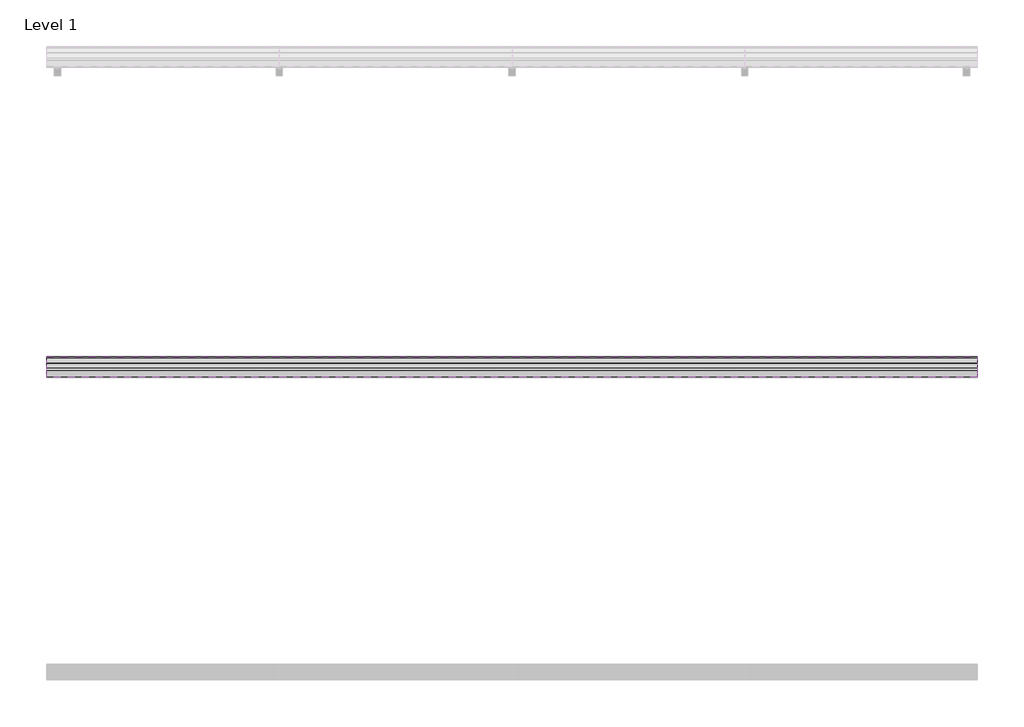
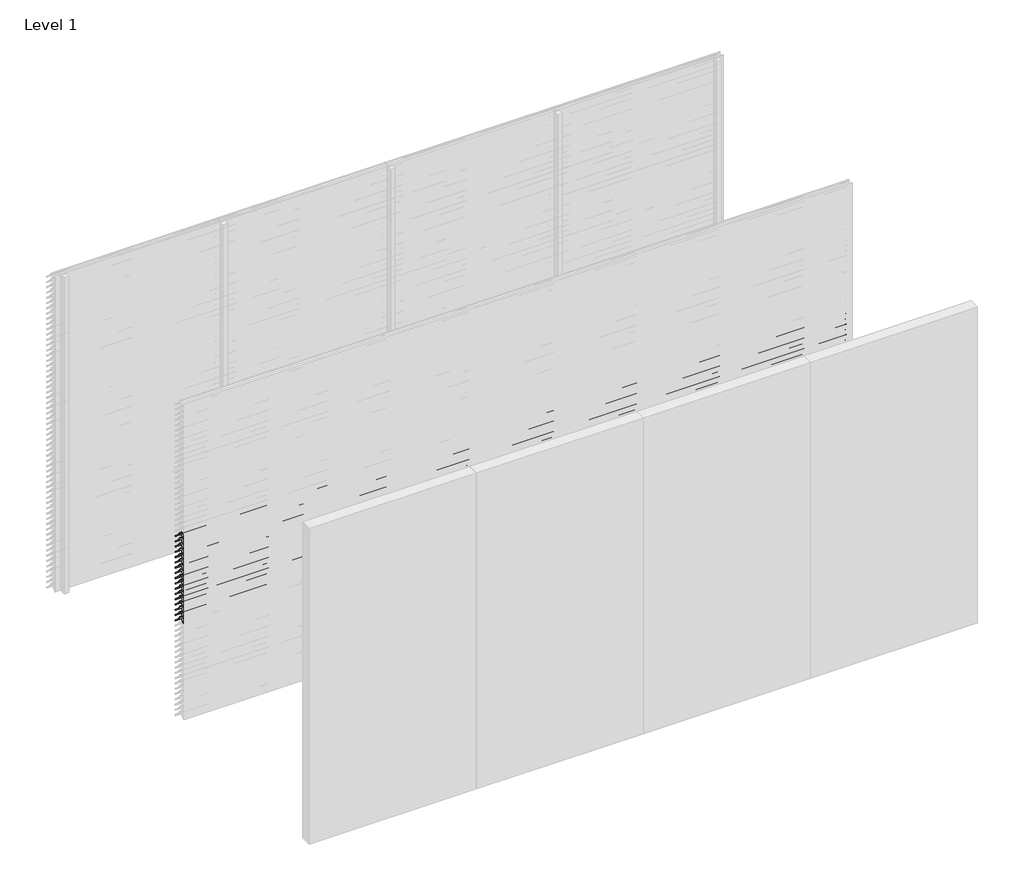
# One storey, part 73 of 173: 17 proxies.
"""IFC4 building model written with IfcOpenShell, lengths in millimetres."""

from ifc_helpers import new_model, si_unit, point, frame, frame_2d, origin, place, context, project, spatial, polyline, circle_curve, trimmed, segment, composite_curve, outline, extrude, element, save

model = new_model("IFC4")

# Units and contexts
model_context = context("Model", 3, world=origin())
ifc_project = project(units=[si_unit("LENGTHUNIT", "METRE", prefix="MILLI")], contexts=[model_context])

# Site, building, storey
site = spatial("IfcSite", under=ifc_project)
building = spatial("IfcBuilding", under=site)
storey = spatial("IfcBuildingStorey", under=building, Name="Level 1", Elevation=0.0)

# Proxies
placement = place(None, origin())
element("IfcBuildingElementProxy", 1, Name="Wall Sweeps", at=placement, inside=storey, context=model_context, shape_type="SweptSolid", body=[
    extrude(outline(composite_curve([segment(polyline([(-31998.0, 1709.1474905), (-31998.0, 1711.6227417)]), True, "CONTINUOUS"), segment(trimmed(circle_curve(frame_2d((-31951.2682172, 1666.2200208)), 65.1557103), [point((-31998.0, 1711.6227417))], [point((-31954.4014323, 1731.3003524))], False, "CARTESIAN"), True, "CONTINUOUS"), segment(polyline([(-31954.4014323, 1731.3003524), (-31934.8315836, 1731.3003524)]), True, "CONTINUOUS"), segment(trimmed(circle_curve(frame_2d((-31732.7329489, 1878.5533172)), 250.0545817), [point((-31934.8315836, 1731.3003524))], [point((-31941.4452143, 1740.8344583))], False, "CARTESIAN"), True, "CONTINUOUS"), segment(trimmed(circle_curve(frame_2d((-31953.2981792, 1735.1737835)), 13.1352966), [point((-31941.4452143, 1740.8344583))], [point((-31953.8171475, 1748.298824))], True, "CARTESIAN"), True, "CONTINUOUS"), segment(polyline([(-31953.8171475, 1748.298824), (-31953.8171475, 1750.0)]), True, "CONTINUOUS"), segment(trimmed(circle_curve(frame_2d((-31953.2981792, 1735.1737835)), 14.8352966), [point((-31953.8171475, 1750.0))], [point((-31939.9637661, 1741.6760487))], False, "CARTESIAN"), True, "CONTINUOUS"), segment(trimmed(circle_curve(frame_2d((-31732.7329489, 1878.5533172)), 248.3545817), [point((-31939.9637661, 1741.6760487))], [point((-31873.8787895, 1674.2059416))], True, "CARTESIAN"), True, "CONTINUOUS"), segment(trimmed(circle_curve(frame_2d((-31883.8147537, 1661.6649442)), 16.0), [point((-31873.8787895, 1674.2059416))], [point((-31867.8648347, 1660.4))], False, "CARTESIAN"), True, "CONTINUOUS"), segment(polyline([(-31867.8648347, 1660.4), (-31869.6712069, 1660.4)]), True, "CONTINUOUS"), segment(trimmed(circle_curve(frame_2d((-31883.8147537, 1661.6649442)), 14.2), [point((-31869.6712069, 1660.4))], [point((-31874.9518628, 1672.7594998))], True, "CARTESIAN"), True, "CONTINUOUS"), segment(trimmed(circle_curve(frame_2d((-31732.7329489, 1878.5533172)), 250.1545817), [point((-31874.9518628, 1672.7594998))], [point((-31933.7064024, 1729.6003524))], False, "CARTESIAN"), True, "CONTINUOUS"), segment(polyline([(-31933.7064024, 1729.6003524), (-31954.3602632, 1729.6003524)]), True, "CONTINUOUS"), segment(trimmed(circle_curve(frame_2d((-31951.2682172, 1666.2200208)), 63.4557103), [point((-31954.3602632, 1729.6003524))], [point((-31998.0, 1709.1474905))], True, "CARTESIAN"), True, "CONTINUOUS")], self_intersect=False)), frame((0.0, 0.0, 0.0), z_axis=(1.0, 0.0, 0.0), x_axis=(0.0, 1.0, 0.0)), (0.0, 0.0, 1.0), 6000.0),
])
element("IfcBuildingElementProxy", 2, Name="Wall Sweeps", at=placement, inside=storey, context=model_context, shape_type="SweptSolid", body=[
    extrude(outline(composite_curve([segment(polyline([(-31998.0, 1659.1474905), (-31998.0, 1661.6227417)]), True, "CONTINUOUS"), segment(trimmed(circle_curve(frame_2d((-31951.2682172, 1616.2200208)), 65.1557103), [point((-31998.0, 1661.6227417))], [point((-31954.4014323, 1681.3003524))], False, "CARTESIAN"), True, "CONTINUOUS"), segment(polyline([(-31954.4014323, 1681.3003524), (-31934.8315836, 1681.3003524)]), True, "CONTINUOUS"), segment(trimmed(circle_curve(frame_2d((-31732.7329489, 1828.5533172)), 250.0545817), [point((-31934.8315836, 1681.3003524))], [point((-31941.4452143, 1690.8344583))], False, "CARTESIAN"), True, "CONTINUOUS"), segment(trimmed(circle_curve(frame_2d((-31953.2981792, 1685.1737835)), 13.1352966), [point((-31941.4452143, 1690.8344583))], [point((-31953.8171475, 1698.298824))], True, "CARTESIAN"), True, "CONTINUOUS"), segment(polyline([(-31953.8171475, 1698.298824), (-31953.8171475, 1700.0)]), True, "CONTINUOUS"), segment(trimmed(circle_curve(frame_2d((-31953.2981792, 1685.1737835)), 14.8352966), [point((-31953.8171475, 1700.0))], [point((-31939.9637661, 1691.6760487))], False, "CARTESIAN"), True, "CONTINUOUS"), segment(trimmed(circle_curve(frame_2d((-31732.7329489, 1828.5533172)), 248.3545817), [point((-31939.9637661, 1691.6760487))], [point((-31873.8787895, 1624.2059416))], True, "CARTESIAN"), True, "CONTINUOUS"), segment(trimmed(circle_curve(frame_2d((-31883.8147537, 1611.6649442)), 16.0), [point((-31873.8787895, 1624.2059416))], [point((-31867.8648347, 1610.4))], False, "CARTESIAN"), True, "CONTINUOUS"), segment(polyline([(-31867.8648347, 1610.4), (-31869.6712069, 1610.4)]), True, "CONTINUOUS"), segment(trimmed(circle_curve(frame_2d((-31883.8147537, 1611.6649442)), 14.2), [point((-31869.6712069, 1610.4))], [point((-31874.9518628, 1622.7594998))], True, "CARTESIAN"), True, "CONTINUOUS"), segment(trimmed(circle_curve(frame_2d((-31732.7329489, 1828.5533172)), 250.1545817), [point((-31874.9518628, 1622.7594998))], [point((-31933.7064024, 1679.6003524))], False, "CARTESIAN"), True, "CONTINUOUS"), segment(polyline([(-31933.7064024, 1679.6003524), (-31954.3602632, 1679.6003524)]), True, "CONTINUOUS"), segment(trimmed(circle_curve(frame_2d((-31951.2682172, 1616.2200208)), 63.4557103), [point((-31954.3602632, 1679.6003524))], [point((-31998.0, 1659.1474905))], True, "CARTESIAN"), True, "CONTINUOUS")], self_intersect=False)), frame((0.0, 0.0, 0.0), z_axis=(1.0, 0.0, 0.0), x_axis=(0.0, 1.0, 0.0)), (0.0, 0.0, 1.0), 6000.0),
])
element("IfcBuildingElementProxy", 3, Name="Wall Sweeps", at=placement, inside=storey, context=model_context, shape_type="SweptSolid", body=[
    extrude(outline(composite_curve([segment(polyline([(-31998.0, 1609.1474905), (-31998.0, 1611.6227417)]), True, "CONTINUOUS"), segment(trimmed(circle_curve(frame_2d((-31951.2682172, 1566.2200208)), 65.1557103), [point((-31998.0, 1611.6227417))], [point((-31954.4014323, 1631.3003524))], False, "CARTESIAN"), True, "CONTINUOUS"), segment(polyline([(-31954.4014323, 1631.3003524), (-31934.8315836, 1631.3003524)]), True, "CONTINUOUS"), segment(trimmed(circle_curve(frame_2d((-31732.7329489, 1778.5533172)), 250.0545817), [point((-31934.8315836, 1631.3003524))], [point((-31941.4452143, 1640.8344583))], False, "CARTESIAN"), True, "CONTINUOUS"), segment(trimmed(circle_curve(frame_2d((-31953.2981792, 1635.1737835)), 13.1352966), [point((-31941.4452143, 1640.8344583))], [point((-31953.8171475, 1648.298824))], True, "CARTESIAN"), True, "CONTINUOUS"), segment(polyline([(-31953.8171475, 1648.298824), (-31953.8171475, 1650.0)]), True, "CONTINUOUS"), segment(trimmed(circle_curve(frame_2d((-31953.2981792, 1635.1737835)), 14.8352966), [point((-31953.8171475, 1650.0))], [point((-31939.9637661, 1641.6760487))], False, "CARTESIAN"), True, "CONTINUOUS"), segment(trimmed(circle_curve(frame_2d((-31732.7329489, 1778.5533172)), 248.3545817), [point((-31939.9637661, 1641.6760487))], [point((-31873.8787895, 1574.2059416))], True, "CARTESIAN"), True, "CONTINUOUS"), segment(trimmed(circle_curve(frame_2d((-31883.8147537, 1561.6649442)), 16.0), [point((-31873.8787895, 1574.2059416))], [point((-31867.8648347, 1560.4))], False, "CARTESIAN"), True, "CONTINUOUS"), segment(polyline([(-31867.8648347, 1560.4), (-31869.6712069, 1560.4)]), True, "CONTINUOUS"), segment(trimmed(circle_curve(frame_2d((-31883.8147537, 1561.6649442)), 14.2), [point((-31869.6712069, 1560.4))], [point((-31874.9518628, 1572.7594998))], True, "CARTESIAN"), True, "CONTINUOUS"), segment(trimmed(circle_curve(frame_2d((-31732.7329489, 1778.5533172)), 250.1545817), [point((-31874.9518628, 1572.7594998))], [point((-31933.7064024, 1629.6003524))], False, "CARTESIAN"), True, "CONTINUOUS"), segment(polyline([(-31933.7064024, 1629.6003524), (-31954.3602632, 1629.6003524)]), True, "CONTINUOUS"), segment(trimmed(circle_curve(frame_2d((-31951.2682172, 1566.2200208)), 63.4557103), [point((-31954.3602632, 1629.6003524))], [point((-31998.0, 1609.1474905))], True, "CARTESIAN"), True, "CONTINUOUS")], self_intersect=False)), frame((0.0, 0.0, 0.0), z_axis=(1.0, 0.0, 0.0), x_axis=(0.0, 1.0, 0.0)), (0.0, 0.0, 1.0), 6000.0),
])
element("IfcBuildingElementProxy", 4, Name="Wall Sweeps", at=placement, inside=storey, context=model_context, shape_type="SweptSolid", body=[
    extrude(outline(composite_curve([segment(polyline([(-31998.0, 1559.1474905), (-31998.0, 1561.6227417)]), True, "CONTINUOUS"), segment(trimmed(circle_curve(frame_2d((-31951.2682172, 1516.2200208)), 65.1557103), [point((-31998.0, 1561.6227417))], [point((-31954.4014323, 1581.3003524))], False, "CARTESIAN"), True, "CONTINUOUS"), segment(polyline([(-31954.4014323, 1581.3003524), (-31934.8315836, 1581.3003524)]), True, "CONTINUOUS"), segment(trimmed(circle_curve(frame_2d((-31732.7329489, 1728.5533172)), 250.0545817), [point((-31934.8315836, 1581.3003524))], [point((-31941.4452143, 1590.8344583))], False, "CARTESIAN"), True, "CONTINUOUS"), segment(trimmed(circle_curve(frame_2d((-31953.2981792, 1585.1737835)), 13.1352966), [point((-31941.4452143, 1590.8344583))], [point((-31953.8171475, 1598.298824))], True, "CARTESIAN"), True, "CONTINUOUS"), segment(polyline([(-31953.8171475, 1598.298824), (-31953.8171475, 1600.0)]), True, "CONTINUOUS"), segment(trimmed(circle_curve(frame_2d((-31953.2981792, 1585.1737835)), 14.8352966), [point((-31953.8171475, 1600.0))], [point((-31939.9637661, 1591.6760487))], False, "CARTESIAN"), True, "CONTINUOUS"), segment(trimmed(circle_curve(frame_2d((-31732.7329489, 1728.5533172)), 248.3545817), [point((-31939.9637661, 1591.6760487))], [point((-31873.8787895, 1524.2059416))], True, "CARTESIAN"), True, "CONTINUOUS"), segment(trimmed(circle_curve(frame_2d((-31883.8147537, 1511.6649442)), 16.0), [point((-31873.8787895, 1524.2059416))], [point((-31867.8648347, 1510.4))], False, "CARTESIAN"), True, "CONTINUOUS"), segment(polyline([(-31867.8648347, 1510.4), (-31869.6712069, 1510.4)]), True, "CONTINUOUS"), segment(trimmed(circle_curve(frame_2d((-31883.8147537, 1511.6649442)), 14.2), [point((-31869.6712069, 1510.4))], [point((-31874.9518628, 1522.7594998))], True, "CARTESIAN"), True, "CONTINUOUS"), segment(trimmed(circle_curve(frame_2d((-31732.7329489, 1728.5533172)), 250.1545817), [point((-31874.9518628, 1522.7594998))], [point((-31933.7064024, 1579.6003524))], False, "CARTESIAN"), True, "CONTINUOUS"), segment(polyline([(-31933.7064024, 1579.6003524), (-31954.3602632, 1579.6003524)]), True, "CONTINUOUS"), segment(trimmed(circle_curve(frame_2d((-31951.2682172, 1516.2200208)), 63.4557103), [point((-31954.3602632, 1579.6003524))], [point((-31998.0, 1559.1474905))], True, "CARTESIAN"), True, "CONTINUOUS")], self_intersect=False)), frame((0.0, 0.0, 0.0), z_axis=(1.0, 0.0, 0.0), x_axis=(0.0, 1.0, 0.0)), (0.0, 0.0, 1.0), 6000.0),
])
element("IfcBuildingElementProxy", 5, Name="Wall Sweeps", at=placement, inside=storey, context=model_context, shape_type="SweptSolid", body=[
    extrude(outline(composite_curve([segment(polyline([(-31998.0, 1509.1474905), (-31998.0, 1511.6227417)]), True, "CONTINUOUS"), segment(trimmed(circle_curve(frame_2d((-31951.2682172, 1466.2200208)), 65.1557103), [point((-31998.0, 1511.6227417))], [point((-31954.4014323, 1531.3003524))], False, "CARTESIAN"), True, "CONTINUOUS"), segment(polyline([(-31954.4014323, 1531.3003524), (-31934.8315836, 1531.3003524)]), True, "CONTINUOUS"), segment(trimmed(circle_curve(frame_2d((-31732.7329489, 1678.5533172)), 250.0545817), [point((-31934.8315836, 1531.3003524))], [point((-31941.4452143, 1540.8344583))], False, "CARTESIAN"), True, "CONTINUOUS"), segment(trimmed(circle_curve(frame_2d((-31953.2981792, 1535.1737835)), 13.1352966), [point((-31941.4452143, 1540.8344583))], [point((-31953.8171475, 1548.298824))], True, "CARTESIAN"), True, "CONTINUOUS"), segment(polyline([(-31953.8171475, 1548.298824), (-31953.8171475, 1550.0)]), True, "CONTINUOUS"), segment(trimmed(circle_curve(frame_2d((-31953.2981792, 1535.1737835)), 14.8352966), [point((-31953.8171475, 1550.0))], [point((-31939.9637661, 1541.6760487))], False, "CARTESIAN"), True, "CONTINUOUS"), segment(trimmed(circle_curve(frame_2d((-31732.7329489, 1678.5533172)), 248.3545817), [point((-31939.9637661, 1541.6760487))], [point((-31873.8787895, 1474.2059416))], True, "CARTESIAN"), True, "CONTINUOUS"), segment(trimmed(circle_curve(frame_2d((-31883.8147537, 1461.6649442)), 16.0), [point((-31873.8787895, 1474.2059416))], [point((-31867.8648347, 1460.4))], False, "CARTESIAN"), True, "CONTINUOUS"), segment(polyline([(-31867.8648347, 1460.4), (-31869.6712069, 1460.4)]), True, "CONTINUOUS"), segment(trimmed(circle_curve(frame_2d((-31883.8147537, 1461.6649442)), 14.2), [point((-31869.6712069, 1460.4))], [point((-31874.9518628, 1472.7594998))], True, "CARTESIAN"), True, "CONTINUOUS"), segment(trimmed(circle_curve(frame_2d((-31732.7329489, 1678.5533172)), 250.1545817), [point((-31874.9518628, 1472.7594998))], [point((-31933.7064024, 1529.6003524))], False, "CARTESIAN"), True, "CONTINUOUS"), segment(polyline([(-31933.7064024, 1529.6003524), (-31954.3602632, 1529.6003524)]), True, "CONTINUOUS"), segment(trimmed(circle_curve(frame_2d((-31951.2682172, 1466.2200208)), 63.4557103), [point((-31954.3602632, 1529.6003524))], [point((-31998.0, 1509.1474905))], True, "CARTESIAN"), True, "CONTINUOUS")], self_intersect=False)), frame((0.0, 0.0, 0.0), z_axis=(1.0, 0.0, 0.0), x_axis=(0.0, 1.0, 0.0)), (0.0, 0.0, 1.0), 6000.0),
])
element("IfcBuildingElementProxy", 6, Name="Wall Sweeps", at=placement, inside=storey, context=model_context, shape_type="SweptSolid", body=[
    extrude(outline(composite_curve([segment(polyline([(-31998.0, 1459.1474905), (-31998.0, 1461.6227417)]), True, "CONTINUOUS"), segment(trimmed(circle_curve(frame_2d((-31951.2682172, 1416.2200208)), 65.1557103), [point((-31998.0, 1461.6227417))], [point((-31954.4014323, 1481.3003524))], False, "CARTESIAN"), True, "CONTINUOUS"), segment(polyline([(-31954.4014323, 1481.3003524), (-31934.8315836, 1481.3003524)]), True, "CONTINUOUS"), segment(trimmed(circle_curve(frame_2d((-31732.7329489, 1628.5533172)), 250.0545817), [point((-31934.8315836, 1481.3003524))], [point((-31941.4452143, 1490.8344583))], False, "CARTESIAN"), True, "CONTINUOUS"), segment(trimmed(circle_curve(frame_2d((-31953.2981792, 1485.1737835)), 13.1352966), [point((-31941.4452143, 1490.8344583))], [point((-31953.8171475, 1498.298824))], True, "CARTESIAN"), True, "CONTINUOUS"), segment(polyline([(-31953.8171475, 1498.298824), (-31953.8171475, 1500.0)]), True, "CONTINUOUS"), segment(trimmed(circle_curve(frame_2d((-31953.2981792, 1485.1737835)), 14.8352966), [point((-31953.8171475, 1500.0))], [point((-31939.9637661, 1491.6760487))], False, "CARTESIAN"), True, "CONTINUOUS"), segment(trimmed(circle_curve(frame_2d((-31732.7329489, 1628.5533172)), 248.3545817), [point((-31939.9637661, 1491.6760487))], [point((-31873.8787895, 1424.2059416))], True, "CARTESIAN"), True, "CONTINUOUS"), segment(trimmed(circle_curve(frame_2d((-31883.8147537, 1411.6649442)), 16.0), [point((-31873.8787895, 1424.2059416))], [point((-31867.8648347, 1410.4))], False, "CARTESIAN"), True, "CONTINUOUS"), segment(polyline([(-31867.8648347, 1410.4), (-31869.6712069, 1410.4)]), True, "CONTINUOUS"), segment(trimmed(circle_curve(frame_2d((-31883.8147537, 1411.6649442)), 14.2), [point((-31869.6712069, 1410.4))], [point((-31874.9518628, 1422.7594998))], True, "CARTESIAN"), True, "CONTINUOUS"), segment(trimmed(circle_curve(frame_2d((-31732.7329489, 1628.5533172)), 250.1545817), [point((-31874.9518628, 1422.7594998))], [point((-31933.7064024, 1479.6003524))], False, "CARTESIAN"), True, "CONTINUOUS"), segment(polyline([(-31933.7064024, 1479.6003524), (-31954.3602632, 1479.6003524)]), True, "CONTINUOUS"), segment(trimmed(circle_curve(frame_2d((-31951.2682172, 1416.2200208)), 63.4557103), [point((-31954.3602632, 1479.6003524))], [point((-31998.0, 1459.1474905))], True, "CARTESIAN"), True, "CONTINUOUS")], self_intersect=False)), frame((0.0, 0.0, 0.0), z_axis=(1.0, 0.0, 0.0), x_axis=(0.0, 1.0, 0.0)), (0.0, 0.0, 1.0), 6000.0),
])
element("IfcBuildingElementProxy", 7, Name="Wall Sweeps", at=placement, inside=storey, context=model_context, shape_type="SweptSolid", body=[
    extrude(outline(composite_curve([segment(polyline([(-31998.0, 1409.1474905), (-31998.0, 1411.6227417)]), True, "CONTINUOUS"), segment(trimmed(circle_curve(frame_2d((-31951.2682172, 1366.2200208)), 65.1557103), [point((-31998.0, 1411.6227417))], [point((-31954.4014323, 1431.3003524))], False, "CARTESIAN"), True, "CONTINUOUS"), segment(polyline([(-31954.4014323, 1431.3003524), (-31934.8315836, 1431.3003524)]), True, "CONTINUOUS"), segment(trimmed(circle_curve(frame_2d((-31732.7329489, 1578.5533172)), 250.0545817), [point((-31934.8315836, 1431.3003524))], [point((-31941.4452143, 1440.8344583))], False, "CARTESIAN"), True, "CONTINUOUS"), segment(trimmed(circle_curve(frame_2d((-31953.2981792, 1435.1737835)), 13.1352966), [point((-31941.4452143, 1440.8344583))], [point((-31953.8171475, 1448.298824))], True, "CARTESIAN"), True, "CONTINUOUS"), segment(polyline([(-31953.8171475, 1448.298824), (-31953.8171475, 1450.0)]), True, "CONTINUOUS"), segment(trimmed(circle_curve(frame_2d((-31953.2981792, 1435.1737835)), 14.8352966), [point((-31953.8171475, 1450.0))], [point((-31939.9637661, 1441.6760487))], False, "CARTESIAN"), True, "CONTINUOUS"), segment(trimmed(circle_curve(frame_2d((-31732.7329489, 1578.5533172)), 248.3545817), [point((-31939.9637661, 1441.6760487))], [point((-31873.8787895, 1374.2059416))], True, "CARTESIAN"), True, "CONTINUOUS"), segment(trimmed(circle_curve(frame_2d((-31883.8147537, 1361.6649442)), 16.0), [point((-31873.8787895, 1374.2059416))], [point((-31867.8648347, 1360.4))], False, "CARTESIAN"), True, "CONTINUOUS"), segment(polyline([(-31867.8648347, 1360.4), (-31869.6712069, 1360.4)]), True, "CONTINUOUS"), segment(trimmed(circle_curve(frame_2d((-31883.8147537, 1361.6649442)), 14.2), [point((-31869.6712069, 1360.4))], [point((-31874.9518628, 1372.7594998))], True, "CARTESIAN"), True, "CONTINUOUS"), segment(trimmed(circle_curve(frame_2d((-31732.7329489, 1578.5533172)), 250.1545817), [point((-31874.9518628, 1372.7594998))], [point((-31933.7064024, 1429.6003524))], False, "CARTESIAN"), True, "CONTINUOUS"), segment(polyline([(-31933.7064024, 1429.6003524), (-31954.3602632, 1429.6003524)]), True, "CONTINUOUS"), segment(trimmed(circle_curve(frame_2d((-31951.2682172, 1366.2200208)), 63.4557103), [point((-31954.3602632, 1429.6003524))], [point((-31998.0, 1409.1474905))], True, "CARTESIAN"), True, "CONTINUOUS")], self_intersect=False)), frame((0.0, 0.0, 0.0), z_axis=(1.0, 0.0, 0.0), x_axis=(0.0, 1.0, 0.0)), (0.0, 0.0, 1.0), 6000.0),
])
element("IfcBuildingElementProxy", 8, Name="Wall Sweeps", at=placement, inside=storey, context=model_context, shape_type="SweptSolid", body=[
    extrude(outline(composite_curve([segment(polyline([(-31998.0, 1359.1474905), (-31998.0, 1361.6227417)]), True, "CONTINUOUS"), segment(trimmed(circle_curve(frame_2d((-31951.2682172, 1316.2200208)), 65.1557103), [point((-31998.0, 1361.6227417))], [point((-31954.4014323, 1381.3003524))], False, "CARTESIAN"), True, "CONTINUOUS"), segment(polyline([(-31954.4014323, 1381.3003524), (-31934.8315836, 1381.3003524)]), True, "CONTINUOUS"), segment(trimmed(circle_curve(frame_2d((-31732.7329489, 1528.5533172)), 250.0545817), [point((-31934.8315836, 1381.3003524))], [point((-31941.4452143, 1390.8344583))], False, "CARTESIAN"), True, "CONTINUOUS"), segment(trimmed(circle_curve(frame_2d((-31953.2981792, 1385.1737835)), 13.1352966), [point((-31941.4452143, 1390.8344583))], [point((-31953.8171475, 1398.298824))], True, "CARTESIAN"), True, "CONTINUOUS"), segment(polyline([(-31953.8171475, 1398.298824), (-31953.8171475, 1400.0)]), True, "CONTINUOUS"), segment(trimmed(circle_curve(frame_2d((-31953.2981792, 1385.1737835)), 14.8352966), [point((-31953.8171475, 1400.0))], [point((-31939.9637661, 1391.6760487))], False, "CARTESIAN"), True, "CONTINUOUS"), segment(trimmed(circle_curve(frame_2d((-31732.7329489, 1528.5533172)), 248.3545817), [point((-31939.9637661, 1391.6760487))], [point((-31873.8787895, 1324.2059416))], True, "CARTESIAN"), True, "CONTINUOUS"), segment(trimmed(circle_curve(frame_2d((-31883.8147537, 1311.6649442)), 16.0), [point((-31873.8787895, 1324.2059416))], [point((-31867.8648347, 1310.4))], False, "CARTESIAN"), True, "CONTINUOUS"), segment(polyline([(-31867.8648347, 1310.4), (-31869.6712069, 1310.4)]), True, "CONTINUOUS"), segment(trimmed(circle_curve(frame_2d((-31883.8147537, 1311.6649442)), 14.2), [point((-31869.6712069, 1310.4))], [point((-31874.9518628, 1322.7594998))], True, "CARTESIAN"), True, "CONTINUOUS"), segment(trimmed(circle_curve(frame_2d((-31732.7329489, 1528.5533172)), 250.1545817), [point((-31874.9518628, 1322.7594998))], [point((-31933.7064024, 1379.6003524))], False, "CARTESIAN"), True, "CONTINUOUS"), segment(polyline([(-31933.7064024, 1379.6003524), (-31954.3602632, 1379.6003524)]), True, "CONTINUOUS"), segment(trimmed(circle_curve(frame_2d((-31951.2682172, 1316.2200208)), 63.4557103), [point((-31954.3602632, 1379.6003524))], [point((-31998.0, 1359.1474905))], True, "CARTESIAN"), True, "CONTINUOUS")], self_intersect=False)), frame((0.0, 0.0, 0.0), z_axis=(1.0, 0.0, 0.0), x_axis=(0.0, 1.0, 0.0)), (0.0, 0.0, 1.0), 6000.0),
])
element("IfcBuildingElementProxy", 9, Name="Wall Sweeps", at=placement, inside=storey, context=model_context, shape_type="SweptSolid", body=[
    extrude(outline(composite_curve([segment(polyline([(-31998.0, 1309.1474905), (-31998.0, 1311.6227417)]), True, "CONTINUOUS"), segment(trimmed(circle_curve(frame_2d((-31951.2682172, 1266.2200208)), 65.1557103), [point((-31998.0, 1311.6227417))], [point((-31954.4014323, 1331.3003524))], False, "CARTESIAN"), True, "CONTINUOUS"), segment(polyline([(-31954.4014323, 1331.3003524), (-31934.8315836, 1331.3003524)]), True, "CONTINUOUS"), segment(trimmed(circle_curve(frame_2d((-31732.7329489, 1478.5533172)), 250.0545817), [point((-31934.8315836, 1331.3003524))], [point((-31941.4452143, 1340.8344583))], False, "CARTESIAN"), True, "CONTINUOUS"), segment(trimmed(circle_curve(frame_2d((-31953.2981792, 1335.1737835)), 13.1352966), [point((-31941.4452143, 1340.8344583))], [point((-31953.8171475, 1348.298824))], True, "CARTESIAN"), True, "CONTINUOUS"), segment(polyline([(-31953.8171475, 1348.298824), (-31953.8171475, 1350.0)]), True, "CONTINUOUS"), segment(trimmed(circle_curve(frame_2d((-31953.2981792, 1335.1737835)), 14.8352966), [point((-31953.8171475, 1350.0))], [point((-31939.9637661, 1341.6760487))], False, "CARTESIAN"), True, "CONTINUOUS"), segment(trimmed(circle_curve(frame_2d((-31732.7329489, 1478.5533172)), 248.3545817), [point((-31939.9637661, 1341.6760487))], [point((-31873.8787895, 1274.2059416))], True, "CARTESIAN"), True, "CONTINUOUS"), segment(trimmed(circle_curve(frame_2d((-31883.8147537, 1261.6649442)), 16.0), [point((-31873.8787895, 1274.2059416))], [point((-31867.8648347, 1260.4))], False, "CARTESIAN"), True, "CONTINUOUS"), segment(polyline([(-31867.8648347, 1260.4), (-31869.6712069, 1260.4)]), True, "CONTINUOUS"), segment(trimmed(circle_curve(frame_2d((-31883.8147537, 1261.6649442)), 14.2), [point((-31869.6712069, 1260.4))], [point((-31874.9518628, 1272.7594998))], True, "CARTESIAN"), True, "CONTINUOUS"), segment(trimmed(circle_curve(frame_2d((-31732.7329489, 1478.5533172)), 250.1545817), [point((-31874.9518628, 1272.7594998))], [point((-31933.7064024, 1329.6003524))], False, "CARTESIAN"), True, "CONTINUOUS"), segment(polyline([(-31933.7064024, 1329.6003524), (-31954.3602632, 1329.6003524)]), True, "CONTINUOUS"), segment(trimmed(circle_curve(frame_2d((-31951.2682172, 1266.2200208)), 63.4557103), [point((-31954.3602632, 1329.6003524))], [point((-31998.0, 1309.1474905))], True, "CARTESIAN"), True, "CONTINUOUS")], self_intersect=False)), frame((0.0, 0.0, 0.0), z_axis=(1.0, 0.0, 0.0), x_axis=(0.0, 1.0, 0.0)), (0.0, 0.0, 1.0), 6000.0),
])
element("IfcBuildingElementProxy", 10, Name="Wall Sweeps", at=placement, inside=storey, context=model_context, shape_type="SweptSolid", body=[
    extrude(outline(composite_curve([segment(polyline([(-31998.0, 1259.1474905), (-31998.0, 1261.6227417)]), True, "CONTINUOUS"), segment(trimmed(circle_curve(frame_2d((-31951.2682172, 1216.2200208)), 65.1557103), [point((-31998.0, 1261.6227417))], [point((-31954.4014323, 1281.3003524))], False, "CARTESIAN"), True, "CONTINUOUS"), segment(polyline([(-31954.4014323, 1281.3003524), (-31934.8315836, 1281.3003524)]), True, "CONTINUOUS"), segment(trimmed(circle_curve(frame_2d((-31732.7329489, 1428.5533172)), 250.0545817), [point((-31934.8315836, 1281.3003524))], [point((-31941.4452143, 1290.8344583))], False, "CARTESIAN"), True, "CONTINUOUS"), segment(trimmed(circle_curve(frame_2d((-31953.2981792, 1285.1737835)), 13.1352966), [point((-31941.4452143, 1290.8344583))], [point((-31953.8171475, 1298.298824))], True, "CARTESIAN"), True, "CONTINUOUS"), segment(polyline([(-31953.8171475, 1298.298824), (-31953.8171475, 1300.0)]), True, "CONTINUOUS"), segment(trimmed(circle_curve(frame_2d((-31953.2981792, 1285.1737835)), 14.8352966), [point((-31953.8171475, 1300.0))], [point((-31939.9637661, 1291.6760487))], False, "CARTESIAN"), True, "CONTINUOUS"), segment(trimmed(circle_curve(frame_2d((-31732.7329489, 1428.5533172)), 248.3545817), [point((-31939.9637661, 1291.6760487))], [point((-31873.8787895, 1224.2059416))], True, "CARTESIAN"), True, "CONTINUOUS"), segment(trimmed(circle_curve(frame_2d((-31883.8147537, 1211.6649442)), 16.0), [point((-31873.8787895, 1224.2059416))], [point((-31867.8648347, 1210.4))], False, "CARTESIAN"), True, "CONTINUOUS"), segment(polyline([(-31867.8648347, 1210.4), (-31869.6712069, 1210.4)]), True, "CONTINUOUS"), segment(trimmed(circle_curve(frame_2d((-31883.8147537, 1211.6649442)), 14.2), [point((-31869.6712069, 1210.4))], [point((-31874.9518628, 1222.7594998))], True, "CARTESIAN"), True, "CONTINUOUS"), segment(trimmed(circle_curve(frame_2d((-31732.7329489, 1428.5533172)), 250.1545817), [point((-31874.9518628, 1222.7594998))], [point((-31933.7064024, 1279.6003524))], False, "CARTESIAN"), True, "CONTINUOUS"), segment(polyline([(-31933.7064024, 1279.6003524), (-31954.3602632, 1279.6003524)]), True, "CONTINUOUS"), segment(trimmed(circle_curve(frame_2d((-31951.2682172, 1216.2200208)), 63.4557103), [point((-31954.3602632, 1279.6003524))], [point((-31998.0, 1259.1474905))], True, "CARTESIAN"), True, "CONTINUOUS")], self_intersect=False)), frame((0.0, 0.0, 0.0), z_axis=(1.0, 0.0, 0.0), x_axis=(0.0, 1.0, 0.0)), (0.0, 0.0, 1.0), 6000.0),
])
element("IfcBuildingElementProxy", 11, Name="Wall Sweeps", at=placement, inside=storey, context=model_context, shape_type="SweptSolid", body=[
    extrude(outline(composite_curve([segment(polyline([(-31998.0, 1209.1474905), (-31998.0, 1211.6227417)]), True, "CONTINUOUS"), segment(trimmed(circle_curve(frame_2d((-31951.2682172, 1166.2200208)), 65.1557103), [point((-31998.0, 1211.6227417))], [point((-31954.4014323, 1231.3003524))], False, "CARTESIAN"), True, "CONTINUOUS"), segment(polyline([(-31954.4014323, 1231.3003524), (-31934.8315836, 1231.3003524)]), True, "CONTINUOUS"), segment(trimmed(circle_curve(frame_2d((-31732.7329489, 1378.5533172)), 250.0545817), [point((-31934.8315836, 1231.3003524))], [point((-31941.4452143, 1240.8344583))], False, "CARTESIAN"), True, "CONTINUOUS"), segment(trimmed(circle_curve(frame_2d((-31953.2981792, 1235.1737835)), 13.1352966), [point((-31941.4452143, 1240.8344583))], [point((-31953.8171475, 1248.298824))], True, "CARTESIAN"), True, "CONTINUOUS"), segment(polyline([(-31953.8171475, 1248.298824), (-31953.8171475, 1250.0)]), True, "CONTINUOUS"), segment(trimmed(circle_curve(frame_2d((-31953.2981792, 1235.1737835)), 14.8352966), [point((-31953.8171475, 1250.0))], [point((-31939.9637661, 1241.6760487))], False, "CARTESIAN"), True, "CONTINUOUS"), segment(trimmed(circle_curve(frame_2d((-31732.7329489, 1378.5533172)), 248.3545817), [point((-31939.9637661, 1241.6760487))], [point((-31873.8787895, 1174.2059416))], True, "CARTESIAN"), True, "CONTINUOUS"), segment(trimmed(circle_curve(frame_2d((-31883.8147537, 1161.6649442)), 16.0), [point((-31873.8787895, 1174.2059416))], [point((-31867.8648347, 1160.4))], False, "CARTESIAN"), True, "CONTINUOUS"), segment(polyline([(-31867.8648347, 1160.4), (-31869.6712069, 1160.4)]), True, "CONTINUOUS"), segment(trimmed(circle_curve(frame_2d((-31883.8147537, 1161.6649442)), 14.2), [point((-31869.6712069, 1160.4))], [point((-31874.9518628, 1172.7594998))], True, "CARTESIAN"), True, "CONTINUOUS"), segment(trimmed(circle_curve(frame_2d((-31732.7329489, 1378.5533172)), 250.1545817), [point((-31874.9518628, 1172.7594998))], [point((-31933.7064024, 1229.6003524))], False, "CARTESIAN"), True, "CONTINUOUS"), segment(polyline([(-31933.7064024, 1229.6003524), (-31954.3602632, 1229.6003524)]), True, "CONTINUOUS"), segment(trimmed(circle_curve(frame_2d((-31951.2682172, 1166.2200208)), 63.4557103), [point((-31954.3602632, 1229.6003524))], [point((-31998.0, 1209.1474905))], True, "CARTESIAN"), True, "CONTINUOUS")], self_intersect=False)), frame((0.0, 0.0, 0.0), z_axis=(1.0, 0.0, 0.0), x_axis=(0.0, 1.0, 0.0)), (0.0, 0.0, 1.0), 6000.0),
])
element("IfcBuildingElementProxy", 12, Name="Wall Sweeps", at=placement, inside=storey, context=model_context, shape_type="SweptSolid", body=[
    extrude(outline(composite_curve([segment(polyline([(-31998.0, 1159.1474905), (-31998.0, 1161.6227417)]), True, "CONTINUOUS"), segment(trimmed(circle_curve(frame_2d((-31951.2682172, 1116.2200208)), 65.1557103), [point((-31998.0, 1161.6227417))], [point((-31954.4014323, 1181.3003524))], False, "CARTESIAN"), True, "CONTINUOUS"), segment(polyline([(-31954.4014323, 1181.3003524), (-31934.8315836, 1181.3003524)]), True, "CONTINUOUS"), segment(trimmed(circle_curve(frame_2d((-31732.7329489, 1328.5533172)), 250.0545817), [point((-31934.8315836, 1181.3003524))], [point((-31941.4452143, 1190.8344583))], False, "CARTESIAN"), True, "CONTINUOUS"), segment(trimmed(circle_curve(frame_2d((-31953.2981792, 1185.1737835)), 13.1352966), [point((-31941.4452143, 1190.8344583))], [point((-31953.8171475, 1198.298824))], True, "CARTESIAN"), True, "CONTINUOUS"), segment(polyline([(-31953.8171475, 1198.298824), (-31953.8171475, 1200.0)]), True, "CONTINUOUS"), segment(trimmed(circle_curve(frame_2d((-31953.2981792, 1185.1737835)), 14.8352966), [point((-31953.8171475, 1200.0))], [point((-31939.9637661, 1191.6760487))], False, "CARTESIAN"), True, "CONTINUOUS"), segment(trimmed(circle_curve(frame_2d((-31732.7329489, 1328.5533172)), 248.3545817), [point((-31939.9637661, 1191.6760487))], [point((-31873.8787895, 1124.2059416))], True, "CARTESIAN"), True, "CONTINUOUS"), segment(trimmed(circle_curve(frame_2d((-31883.8147537, 1111.6649442)), 16.0), [point((-31873.8787895, 1124.2059416))], [point((-31867.8648347, 1110.4))], False, "CARTESIAN"), True, "CONTINUOUS"), segment(polyline([(-31867.8648347, 1110.4), (-31869.6712069, 1110.4)]), True, "CONTINUOUS"), segment(trimmed(circle_curve(frame_2d((-31883.8147537, 1111.6649442)), 14.2), [point((-31869.6712069, 1110.4))], [point((-31874.9518628, 1122.7594998))], True, "CARTESIAN"), True, "CONTINUOUS"), segment(trimmed(circle_curve(frame_2d((-31732.7329489, 1328.5533172)), 250.1545817), [point((-31874.9518628, 1122.7594998))], [point((-31933.7064024, 1179.6003524))], False, "CARTESIAN"), True, "CONTINUOUS"), segment(polyline([(-31933.7064024, 1179.6003524), (-31954.3602632, 1179.6003524)]), True, "CONTINUOUS"), segment(trimmed(circle_curve(frame_2d((-31951.2682172, 1116.2200208)), 63.4557103), [point((-31954.3602632, 1179.6003524))], [point((-31998.0, 1159.1474905))], True, "CARTESIAN"), True, "CONTINUOUS")], self_intersect=False)), frame((0.0, 0.0, 0.0), z_axis=(1.0, 0.0, 0.0), x_axis=(0.0, 1.0, 0.0)), (0.0, 0.0, 1.0), 6000.0),
])
element("IfcBuildingElementProxy", 13, Name="Wall Sweeps", at=placement, inside=storey, context=model_context, shape_type="SweptSolid", body=[
    extrude(outline(composite_curve([segment(polyline([(-31998.0, 1109.1474905), (-31998.0, 1111.6227417)]), True, "CONTINUOUS"), segment(trimmed(circle_curve(frame_2d((-31951.2682172, 1066.2200208)), 65.1557103), [point((-31998.0, 1111.6227417))], [point((-31954.4014323, 1131.3003524))], False, "CARTESIAN"), True, "CONTINUOUS"), segment(polyline([(-31954.4014323, 1131.3003524), (-31934.8315836, 1131.3003524)]), True, "CONTINUOUS"), segment(trimmed(circle_curve(frame_2d((-31732.7329489, 1278.5533172)), 250.0545817), [point((-31934.8315836, 1131.3003524))], [point((-31941.4452143, 1140.8344583))], False, "CARTESIAN"), True, "CONTINUOUS"), segment(trimmed(circle_curve(frame_2d((-31953.2981792, 1135.1737835)), 13.1352966), [point((-31941.4452143, 1140.8344583))], [point((-31953.8171475, 1148.298824))], True, "CARTESIAN"), True, "CONTINUOUS"), segment(polyline([(-31953.8171475, 1148.298824), (-31953.8171475, 1150.0)]), True, "CONTINUOUS"), segment(trimmed(circle_curve(frame_2d((-31953.2981792, 1135.1737835)), 14.8352966), [point((-31953.8171475, 1150.0))], [point((-31939.9637661, 1141.6760487))], False, "CARTESIAN"), True, "CONTINUOUS"), segment(trimmed(circle_curve(frame_2d((-31732.7329489, 1278.5533172)), 248.3545817), [point((-31939.9637661, 1141.6760487))], [point((-31873.8787895, 1074.2059416))], True, "CARTESIAN"), True, "CONTINUOUS"), segment(trimmed(circle_curve(frame_2d((-31883.8147537, 1061.6649442)), 16.0), [point((-31873.8787895, 1074.2059416))], [point((-31867.8648347, 1060.4))], False, "CARTESIAN"), True, "CONTINUOUS"), segment(polyline([(-31867.8648347, 1060.4), (-31869.6712069, 1060.4)]), True, "CONTINUOUS"), segment(trimmed(circle_curve(frame_2d((-31883.8147537, 1061.6649442)), 14.2), [point((-31869.6712069, 1060.4))], [point((-31874.9518628, 1072.7594998))], True, "CARTESIAN"), True, "CONTINUOUS"), segment(trimmed(circle_curve(frame_2d((-31732.7329489, 1278.5533172)), 250.1545817), [point((-31874.9518628, 1072.7594998))], [point((-31933.7064024, 1129.6003524))], False, "CARTESIAN"), True, "CONTINUOUS"), segment(polyline([(-31933.7064024, 1129.6003524), (-31954.3602632, 1129.6003524)]), True, "CONTINUOUS"), segment(trimmed(circle_curve(frame_2d((-31951.2682172, 1066.2200208)), 63.4557103), [point((-31954.3602632, 1129.6003524))], [point((-31998.0, 1109.1474905))], True, "CARTESIAN"), True, "CONTINUOUS")], self_intersect=False)), frame((0.0, 0.0, 0.0), z_axis=(1.0, 0.0, 0.0), x_axis=(0.0, 1.0, 0.0)), (0.0, 0.0, 1.0), 6000.0),
])
element("IfcBuildingElementProxy", 14, Name="Wall Sweeps", at=placement, inside=storey, context=model_context, shape_type="SweptSolid", body=[
    extrude(outline(composite_curve([segment(polyline([(-31998.0, 1059.1474905), (-31998.0, 1061.6227417)]), True, "CONTINUOUS"), segment(trimmed(circle_curve(frame_2d((-31951.2682172, 1016.2200208)), 65.1557103), [point((-31998.0, 1061.6227417))], [point((-31954.4014323, 1081.3003524))], False, "CARTESIAN"), True, "CONTINUOUS"), segment(polyline([(-31954.4014323, 1081.3003524), (-31934.8315836, 1081.3003524)]), True, "CONTINUOUS"), segment(trimmed(circle_curve(frame_2d((-31732.7329489, 1228.5533172)), 250.0545817), [point((-31934.8315836, 1081.3003524))], [point((-31941.4452143, 1090.8344583))], False, "CARTESIAN"), True, "CONTINUOUS"), segment(trimmed(circle_curve(frame_2d((-31953.2981792, 1085.1737835)), 13.1352966), [point((-31941.4452143, 1090.8344583))], [point((-31953.8171475, 1098.298824))], True, "CARTESIAN"), True, "CONTINUOUS"), segment(polyline([(-31953.8171475, 1098.298824), (-31953.8171475, 1100.0)]), True, "CONTINUOUS"), segment(trimmed(circle_curve(frame_2d((-31953.2981792, 1085.1737835)), 14.8352966), [point((-31953.8171475, 1100.0))], [point((-31939.9637661, 1091.6760487))], False, "CARTESIAN"), True, "CONTINUOUS"), segment(trimmed(circle_curve(frame_2d((-31732.7329489, 1228.5533172)), 248.3545817), [point((-31939.9637661, 1091.6760487))], [point((-31873.8787895, 1024.2059416))], True, "CARTESIAN"), True, "CONTINUOUS"), segment(trimmed(circle_curve(frame_2d((-31883.8147537, 1011.6649442)), 16.0), [point((-31873.8787895, 1024.2059416))], [point((-31867.8648347, 1010.4))], False, "CARTESIAN"), True, "CONTINUOUS"), segment(polyline([(-31867.8648347, 1010.4), (-31869.6712069, 1010.4)]), True, "CONTINUOUS"), segment(trimmed(circle_curve(frame_2d((-31883.8147537, 1011.6649442)), 14.2), [point((-31869.6712069, 1010.4))], [point((-31874.9518628, 1022.7594998))], True, "CARTESIAN"), True, "CONTINUOUS"), segment(trimmed(circle_curve(frame_2d((-31732.7329489, 1228.5533172)), 250.1545817), [point((-31874.9518628, 1022.7594998))], [point((-31933.7064024, 1079.6003524))], False, "CARTESIAN"), True, "CONTINUOUS"), segment(polyline([(-31933.7064024, 1079.6003524), (-31954.3602632, 1079.6003524)]), True, "CONTINUOUS"), segment(trimmed(circle_curve(frame_2d((-31951.2682172, 1016.2200208)), 63.4557103), [point((-31954.3602632, 1079.6003524))], [point((-31998.0, 1059.1474905))], True, "CARTESIAN"), True, "CONTINUOUS")], self_intersect=False)), frame((0.0, 0.0, 0.0), z_axis=(1.0, 0.0, 0.0), x_axis=(0.0, 1.0, 0.0)), (0.0, 0.0, 1.0), 6000.0),
])
element("IfcBuildingElementProxy", 15, Name="Wall Sweeps", at=placement, inside=storey, context=model_context, shape_type="SweptSolid", body=[
    extrude(outline(composite_curve([segment(polyline([(-31998.0, 1009.1474905), (-31998.0, 1011.6227417)]), True, "CONTINUOUS"), segment(trimmed(circle_curve(frame_2d((-31951.2682172, 966.2200208)), 65.1557103), [point((-31998.0, 1011.6227417))], [point((-31954.4014323, 1031.3003524))], False, "CARTESIAN"), True, "CONTINUOUS"), segment(polyline([(-31954.4014323, 1031.3003524), (-31934.8315836, 1031.3003524)]), True, "CONTINUOUS"), segment(trimmed(circle_curve(frame_2d((-31732.7329489, 1178.5533172)), 250.0545817), [point((-31934.8315836, 1031.3003524))], [point((-31941.4452143, 1040.8344583))], False, "CARTESIAN"), True, "CONTINUOUS"), segment(trimmed(circle_curve(frame_2d((-31953.2981792, 1035.1737835)), 13.1352966), [point((-31941.4452143, 1040.8344583))], [point((-31953.8171475, 1048.298824))], True, "CARTESIAN"), True, "CONTINUOUS"), segment(polyline([(-31953.8171475, 1048.298824), (-31953.8171475, 1050.0)]), True, "CONTINUOUS"), segment(trimmed(circle_curve(frame_2d((-31953.2981792, 1035.1737835)), 14.8352966), [point((-31953.8171475, 1050.0))], [point((-31939.9637661, 1041.6760487))], False, "CARTESIAN"), True, "CONTINUOUS"), segment(trimmed(circle_curve(frame_2d((-31732.7329489, 1178.5533172)), 248.3545817), [point((-31939.9637661, 1041.6760487))], [point((-31873.8787895, 974.2059416))], True, "CARTESIAN"), True, "CONTINUOUS"), segment(trimmed(circle_curve(frame_2d((-31883.8147537, 961.6649442)), 16.0), [point((-31873.8787895, 974.2059416))], [point((-31867.8648347, 960.4))], False, "CARTESIAN"), True, "CONTINUOUS"), segment(polyline([(-31867.8648347, 960.4), (-31869.6712069, 960.4)]), True, "CONTINUOUS"), segment(trimmed(circle_curve(frame_2d((-31883.8147537, 961.6649442)), 14.2), [point((-31869.6712069, 960.4))], [point((-31874.9518628, 972.7594998))], True, "CARTESIAN"), True, "CONTINUOUS"), segment(trimmed(circle_curve(frame_2d((-31732.7329489, 1178.5533172)), 250.1545817), [point((-31874.9518628, 972.7594998))], [point((-31933.7064024, 1029.6003524))], False, "CARTESIAN"), True, "CONTINUOUS"), segment(polyline([(-31933.7064024, 1029.6003524), (-31954.3602632, 1029.6003524)]), True, "CONTINUOUS"), segment(trimmed(circle_curve(frame_2d((-31951.2682172, 966.2200208)), 63.4557103), [point((-31954.3602632, 1029.6003524))], [point((-31998.0, 1009.1474905))], True, "CARTESIAN"), True, "CONTINUOUS")], self_intersect=False)), frame((0.0, 0.0, 0.0), z_axis=(1.0, 0.0, 0.0), x_axis=(0.0, 1.0, 0.0)), (0.0, 0.0, 1.0), 6000.0),
])
element("IfcBuildingElementProxy", 16, Name="Wall Sweeps", at=placement, inside=storey, context=model_context, shape_type="SweptSolid", body=[
    extrude(outline(composite_curve([segment(polyline([(-31998.0, 959.1474905), (-31998.0, 961.6227417)]), True, "CONTINUOUS"), segment(trimmed(circle_curve(frame_2d((-31951.2682172, 916.2200208)), 65.1557103), [point((-31998.0, 961.6227417))], [point((-31954.4014323, 981.3003524))], False, "CARTESIAN"), True, "CONTINUOUS"), segment(polyline([(-31954.4014323, 981.3003524), (-31934.8315836, 981.3003524)]), True, "CONTINUOUS"), segment(trimmed(circle_curve(frame_2d((-31732.7329489, 1128.5533172)), 250.0545817), [point((-31934.8315836, 981.3003524))], [point((-31941.4452143, 990.8344583))], False, "CARTESIAN"), True, "CONTINUOUS"), segment(trimmed(circle_curve(frame_2d((-31953.2981792, 985.1737835)), 13.1352966), [point((-31941.4452143, 990.8344583))], [point((-31953.8171475, 998.298824))], True, "CARTESIAN"), True, "CONTINUOUS"), segment(polyline([(-31953.8171475, 998.298824), (-31953.8171475, 1000.0)]), True, "CONTINUOUS"), segment(trimmed(circle_curve(frame_2d((-31953.2981792, 985.1737835)), 14.8352966), [point((-31953.8171475, 1000.0))], [point((-31939.9637661, 991.6760487))], False, "CARTESIAN"), True, "CONTINUOUS"), segment(trimmed(circle_curve(frame_2d((-31732.7329489, 1128.5533172)), 248.3545817), [point((-31939.9637661, 991.6760487))], [point((-31873.8787895, 924.2059416))], True, "CARTESIAN"), True, "CONTINUOUS"), segment(trimmed(circle_curve(frame_2d((-31883.8147537, 911.6649442)), 16.0), [point((-31873.8787895, 924.2059416))], [point((-31867.8648347, 910.4))], False, "CARTESIAN"), True, "CONTINUOUS"), segment(polyline([(-31867.8648347, 910.4), (-31869.6712069, 910.4)]), True, "CONTINUOUS"), segment(trimmed(circle_curve(frame_2d((-31883.8147537, 911.6649442)), 14.2), [point((-31869.6712069, 910.4))], [point((-31874.9518628, 922.7594998))], True, "CARTESIAN"), True, "CONTINUOUS"), segment(trimmed(circle_curve(frame_2d((-31732.7329489, 1128.5533172)), 250.1545817), [point((-31874.9518628, 922.7594998))], [point((-31933.7064024, 979.6003524))], False, "CARTESIAN"), True, "CONTINUOUS"), segment(polyline([(-31933.7064024, 979.6003524), (-31954.3602632, 979.6003524)]), True, "CONTINUOUS"), segment(trimmed(circle_curve(frame_2d((-31951.2682172, 916.2200208)), 63.4557103), [point((-31954.3602632, 979.6003524))], [point((-31998.0, 959.1474905))], True, "CARTESIAN"), True, "CONTINUOUS")], self_intersect=False)), frame((0.0, 0.0, 0.0), z_axis=(1.0, 0.0, 0.0), x_axis=(0.0, 1.0, 0.0)), (0.0, 0.0, 1.0), 6000.0),
])
element("IfcBuildingElementProxy", 17, Name="Wall Sweeps", at=placement, inside=storey, context=model_context, shape_type="SweptSolid", body=[
    extrude(outline(composite_curve([segment(polyline([(-31998.0, 909.1474905), (-31998.0, 911.6227417)]), True, "CONTINUOUS"), segment(trimmed(circle_curve(frame_2d((-31951.2682172, 866.2200208)), 65.1557103), [point((-31998.0, 911.6227417))], [point((-31954.4014323, 931.3003524))], False, "CARTESIAN"), True, "CONTINUOUS"), segment(polyline([(-31954.4014323, 931.3003524), (-31934.8315836, 931.3003524)]), True, "CONTINUOUS"), segment(trimmed(circle_curve(frame_2d((-31732.7329489, 1078.5533172)), 250.0545817), [point((-31934.8315836, 931.3003524))], [point((-31941.4452143, 940.8344583))], False, "CARTESIAN"), True, "CONTINUOUS"), segment(trimmed(circle_curve(frame_2d((-31953.2981792, 935.1737835)), 13.1352966), [point((-31941.4452143, 940.8344583))], [point((-31953.8171475, 948.298824))], True, "CARTESIAN"), True, "CONTINUOUS"), segment(polyline([(-31953.8171475, 948.298824), (-31953.8171475, 950.0)]), True, "CONTINUOUS"), segment(trimmed(circle_curve(frame_2d((-31953.2981792, 935.1737835)), 14.8352966), [point((-31953.8171475, 950.0))], [point((-31939.9637661, 941.6760487))], False, "CARTESIAN"), True, "CONTINUOUS"), segment(trimmed(circle_curve(frame_2d((-31732.7329489, 1078.5533172)), 248.3545817), [point((-31939.9637661, 941.6760487))], [point((-31873.8787895, 874.2059416))], True, "CARTESIAN"), True, "CONTINUOUS"), segment(trimmed(circle_curve(frame_2d((-31883.8147537, 861.6649442)), 16.0), [point((-31873.8787895, 874.2059416))], [point((-31867.8648347, 860.4))], False, "CARTESIAN"), True, "CONTINUOUS"), segment(polyline([(-31867.8648347, 860.4), (-31869.6712069, 860.4)]), True, "CONTINUOUS"), segment(trimmed(circle_curve(frame_2d((-31883.8147537, 861.6649442)), 14.2), [point((-31869.6712069, 860.4))], [point((-31874.9518628, 872.7594998))], True, "CARTESIAN"), True, "CONTINUOUS"), segment(trimmed(circle_curve(frame_2d((-31732.7329489, 1078.5533172)), 250.1545817), [point((-31874.9518628, 872.7594998))], [point((-31933.7064024, 929.6003524))], False, "CARTESIAN"), True, "CONTINUOUS"), segment(polyline([(-31933.7064024, 929.6003524), (-31954.3602632, 929.6003524)]), True, "CONTINUOUS"), segment(trimmed(circle_curve(frame_2d((-31951.2682172, 866.2200208)), 63.4557103), [point((-31954.3602632, 929.6003524))], [point((-31998.0, 909.1474905))], True, "CARTESIAN"), True, "CONTINUOUS")], self_intersect=False)), frame((0.0, 0.0, 0.0), z_axis=(1.0, 0.0, 0.0), x_axis=(0.0, 1.0, 0.0)), (0.0, 0.0, 1.0), 6000.0),
])

save(model, "model.ifc")
